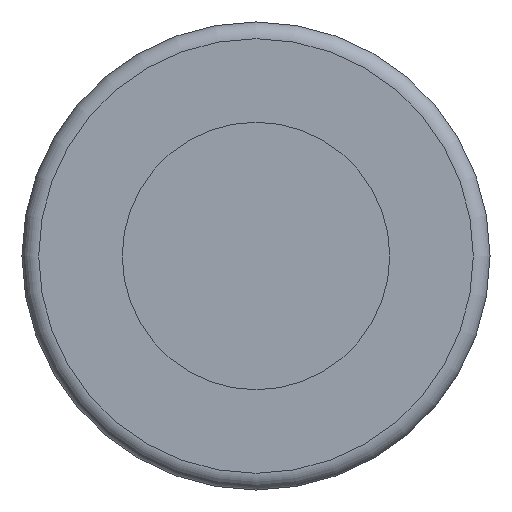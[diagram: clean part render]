
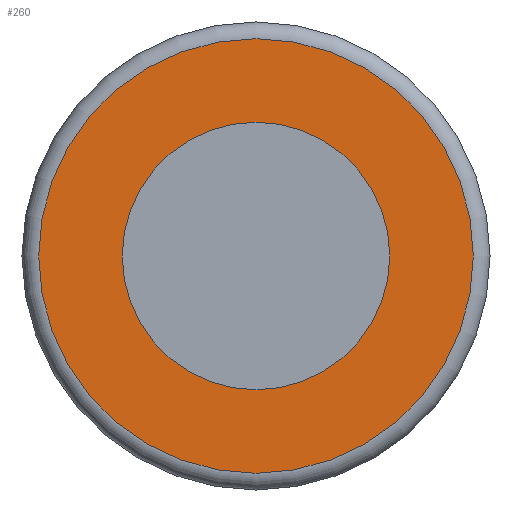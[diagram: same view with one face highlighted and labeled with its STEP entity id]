
A CAD part, left-side view. The second image highlights one B-rep face of the part: STEP entity #260.
In plain terms, the highlighted planar face has unit normal (-1, 0, 0).
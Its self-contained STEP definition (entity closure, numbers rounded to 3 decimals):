
#209=CARTESIAN_POINT('',(130.0,13.0,0.));
#210=VERTEX_POINT('',#209);
#211=CARTESIAN_POINT('',(130.0,0.0,0.0));
#212=DIRECTION('',(1.0,0.0,0.0));
#213=DIRECTION('',(0.0,-1.0,0.0));
#214=AXIS2_PLACEMENT_3D('',#211,#212,#213);
#215=CIRCLE('',#214,13.0);
#216=EDGE_CURVE('',#210,#210,#215,.T.);
#241=CARTESIAN_POINT('',(130.0,0.0,0.0));
#242=DIRECTION('',(-1.0,0.0,0.0));
#243=DIRECTION('',(0.0,0.0,1.0));
#244=AXIS2_PLACEMENT_3D('',#241,#242,#243);
#245=PLANE('',#244);
#246=ORIENTED_EDGE('',*,*,#216,.F.);
#247=EDGE_LOOP('',(#246));
#248=FACE_OUTER_BOUND('',#247,.T.);
#249=CARTESIAN_POINT('',(130.0,8.0,0.));
#250=VERTEX_POINT('',#249);
#251=CARTESIAN_POINT('',(130.0,0.0,0.0));
#252=DIRECTION('',(1.0,0.0,0.0));
#253=DIRECTION('',(0.0,-1.0,0.0));
#254=AXIS2_PLACEMENT_3D('',#251,#252,#253);
#255=CIRCLE('',#254,8.0);
#256=EDGE_CURVE('',#250,#250,#255,.T.);
#257=ORIENTED_EDGE('',*,*,#256,.T.);
#258=EDGE_LOOP('',(#257));
#259=FACE_BOUND('',#258,.T.);
#260=ADVANCED_FACE('',(#248,#259),#245,.T.);
